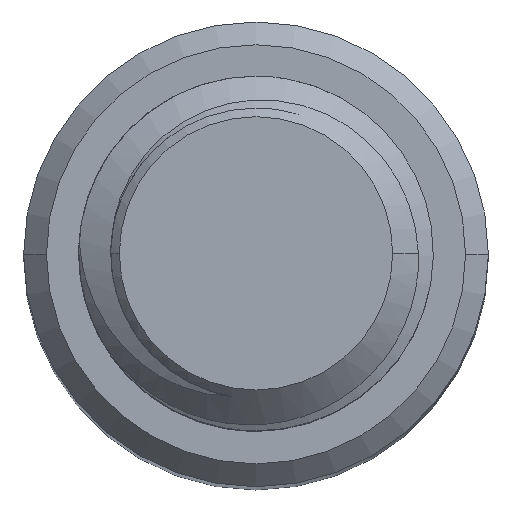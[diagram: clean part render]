
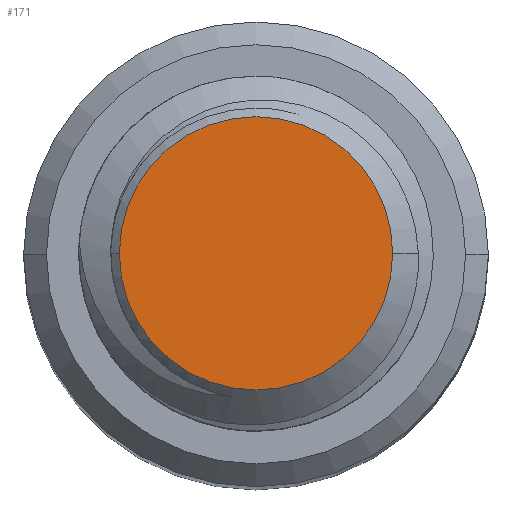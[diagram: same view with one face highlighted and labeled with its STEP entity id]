
A CAD part, top view. The second image highlights one B-rep face of the part: STEP entity #171.
In plain terms, the highlighted planar face has unit normal (0, 0, 1).
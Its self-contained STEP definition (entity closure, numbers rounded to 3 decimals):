
#171 = ADVANCED_FACE ( 'NONE', ( #486 ), #4352, .T. ) ;
#486 = FACE_OUTER_BOUND ( 'NONE', #3125, .T. ) ;
#867 = DIRECTION ( 'NONE',  ( 0., 0., 1. ) ) ;
#964 = DIRECTION ( 'NONE',  ( 0., -1., 0. ) ) ;
#1397 = CARTESIAN_POINT ( 'NONE',  ( 3., 0., 84.2 ) ) ;
#1558 = ORIENTED_EDGE ( 'NONE', *, *, #3263, .T. ) ;
#1634 = CARTESIAN_POINT ( 'NONE',  ( 0., 0., 84.2 ) ) ;
#1915 = CARTESIAN_POINT ( 'NONE',  ( 0., 0., 84.2 ) ) ;
#2141 = AXIS2_PLACEMENT_3D ( 'NONE', #4895, #867, #964 ) ;
#2146 = DIRECTION ( 'NONE',  ( 0., 0., 1. ) ) ;
#2355 = CIRCLE ( 'NONE', #5453, 3. ) ;
#2722 = ORIENTED_EDGE ( 'NONE', *, *, #6042, .T. ) ;
#2766 = CARTESIAN_POINT ( 'NONE',  ( -3., 0., 84.2 ) ) ;
#3001 = DIRECTION ( 'NONE',  ( 1., 0., 0. ) ) ;
#3125 = EDGE_LOOP ( 'NONE', ( #2722, #1558 ) ) ;
#3263 = EDGE_CURVE ( 'NONE', #6146, #5395, #2355, .T. ) ;
#4071 = AXIS2_PLACEMENT_3D ( 'NONE', #1915, #5816, #3001 ) ;
#4352 = PLANE ( 'NONE',  #2141 ) ;
#4487 = DIRECTION ( 'NONE',  ( 1., 0., 0. ) ) ;
#4895 = CARTESIAN_POINT ( 'NONE',  ( 0., 0., 84.2 ) ) ;
#5395 = VERTEX_POINT ( 'NONE', #2766 ) ;
#5453 = AXIS2_PLACEMENT_3D ( 'NONE', #1634, #2146, #4487 ) ;
#5816 = DIRECTION ( 'NONE',  ( 0., 0., 1. ) ) ;
#6010 = CIRCLE ( 'NONE', #4071, 3. ) ;
#6042 = EDGE_CURVE ( 'NONE', #5395, #6146, #6010, .T. ) ;
#6146 = VERTEX_POINT ( 'NONE', #1397 ) ;
